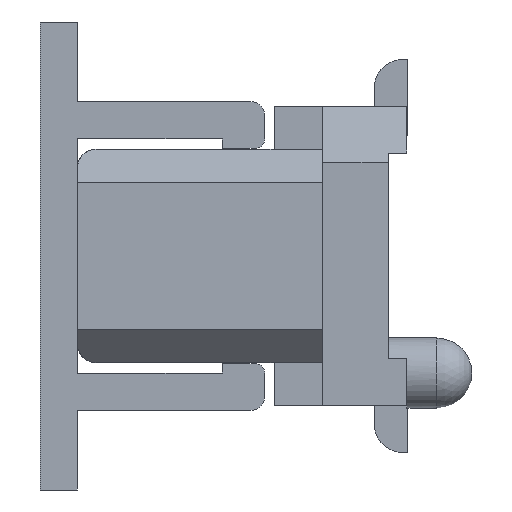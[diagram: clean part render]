
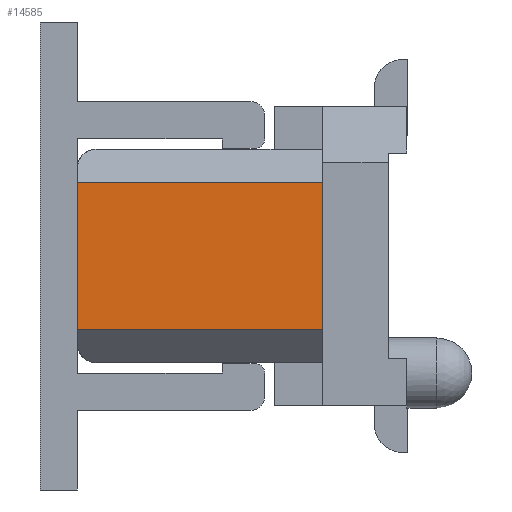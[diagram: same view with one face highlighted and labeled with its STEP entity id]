
A CAD part, left-side view. The second image highlights one B-rep face of the part: STEP entity #14585.
In plain terms, the highlighted planar face has unit normal (-1, 0, 0).
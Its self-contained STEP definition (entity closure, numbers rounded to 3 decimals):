
#2660 = AXIS2_PLACEMENT_3D ( 'NONE', #33145, #33151, #33152 ) ;
#3458 = VERTEX_POINT ( 'NONE', #5801 ) ;
#3460 = VERTEX_POINT ( 'NONE', #5803 ) ;
#3702 = VERTEX_POINT ( 'NONE', #37552 ) ;
#3704 = VERTEX_POINT ( 'NONE', #37554 ) ;
#5801 = CARTESIAN_POINT ( 'NONE',  ( 0.45, 3.32, -0.79 ) ) ;
#5803 = CARTESIAN_POINT ( 'NONE',  ( 0.45, 3.32, 0.79 ) ) ;
#6662 = ORIENTED_EDGE ( 'NONE', *, *, #18091, .F. ) ;
#6663 = ORIENTED_EDGE ( 'NONE', *, *, #39295, .T. ) ;
#6664 = ORIENTED_EDGE ( 'NONE', *, *, #39296, .T. ) ;
#6665 = ORIENTED_EDGE ( 'NONE', *, *, #39297, .T. ) ;
#13194 = EDGE_LOOP ( 'NONE', ( #6662, #6663, #6664, #6665 ) ) ;
#14585 = ADVANCED_FACE ( 'NONE', ( #33149 ), #33143, .F. ) ;
#18091 = EDGE_CURVE ( 'NONE', #3458, #3460, #41666, .T. ) ;
#26008 = LINE ( 'NONE', #26904, #26455 ) ;
#26455 = VECTOR ( 'NONE', #26905, 1000. ) ;
#26457 = VECTOR ( 'NONE', #26907, 1000. ) ;
#26459 = VECTOR ( 'NONE', #26910, 1000. ) ;
#26896 = LINE ( 'NONE', #26906, #26457 ) ;
#26904 = CARTESIAN_POINT ( 'NONE',  ( 0.45, 3.32, -0.79 ) ) ;
#26905 = DIRECTION ( 'NONE',  ( 0., -1., 0. ) ) ;
#26906 = CARTESIAN_POINT ( 'NONE',  ( 0.45, 0.7, -1.6 ) ) ;
#26907 = DIRECTION ( 'NONE',  ( 0., 0., 1. ) ) ;
#26908 = LINE ( 'NONE', #26909, #26459 ) ;
#26909 = CARTESIAN_POINT ( 'NONE',  ( 0.45, 3.32, 0.79 ) ) ;
#26910 = DIRECTION ( 'NONE',  ( 0., 1., 0. ) ) ;
#33143 = PLANE ( 'NONE',  #2660 ) ;
#33145 = CARTESIAN_POINT ( 'NONE',  ( 0.45, 3.32, -1.6 ) ) ;
#33149 = FACE_OUTER_BOUND ( 'NONE', #13194, .T. ) ;
#33151 = DIRECTION ( 'NONE',  ( 1., 0., 0. ) ) ;
#33152 = DIRECTION ( 'NONE',  ( 0., 1., 0. ) ) ;
#34923 = VECTOR ( 'NONE', #41668, 1000. ) ;
#37552 = CARTESIAN_POINT ( 'NONE',  ( 0.45, 0.7, -0.79 ) ) ;
#37554 = CARTESIAN_POINT ( 'NONE',  ( 0.45, 0.7, 0.79 ) ) ;
#39295 = EDGE_CURVE ( 'NONE', #3458, #3702, #26008, .T. ) ;
#39296 = EDGE_CURVE ( 'NONE', #3702, #3704, #26896, .T. ) ;
#39297 = EDGE_CURVE ( 'NONE', #3704, #3460, #26908, .T. ) ;
#41666 = LINE ( 'NONE', #41667, #34923 ) ;
#41667 = CARTESIAN_POINT ( 'NONE',  ( 0.45, 3.32, -1.6 ) ) ;
#41668 = DIRECTION ( 'NONE',  ( 0., 0., 1. ) ) ;
